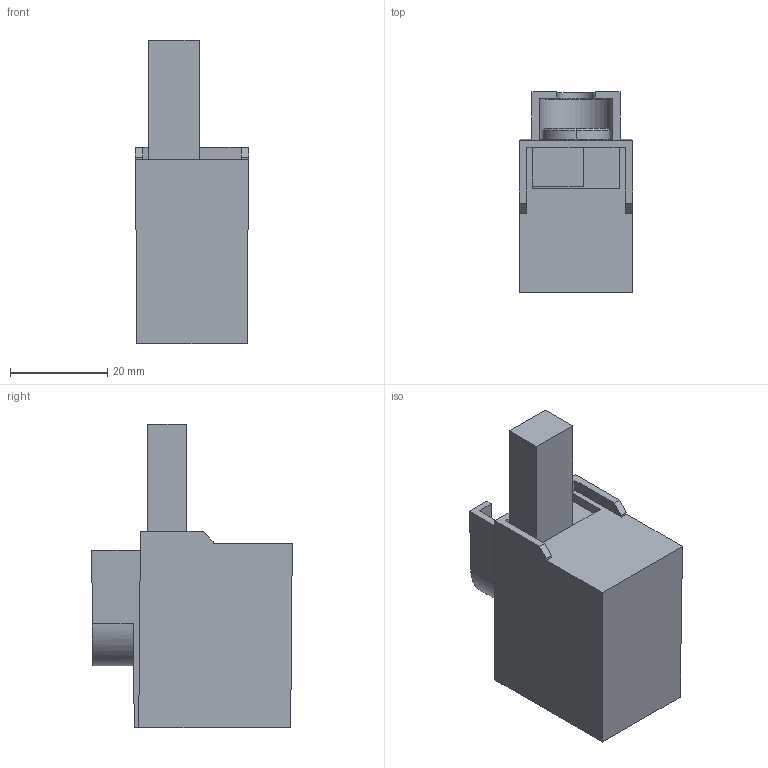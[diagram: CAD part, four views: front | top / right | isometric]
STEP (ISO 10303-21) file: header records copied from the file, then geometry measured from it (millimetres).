
FILE_DESCRIPTION((''),'2;1');
FILE_NAME('1479182','2025-04-11T08:26:05',('VilleKontturi'),(''),'CREO PARAMETRIC BY PTC INC, 2023154','CREO PARAMETRIC BY PTC INC, 2023154','');
FILE_SCHEMA(('AP242_MANAGED_MODEL_BASED_3D_ENGINEERING_MIM_LF { 1 0 10303 442 1 1 4 }'));
Length unit declared in the file: millimetre
Products named in the file (1): 1479182
Bounding box: 23.37 x 41.31 x 62.6 mm (x, y, z)
Volume: 24054.2 mm3; surface area: 9573.7 mm2
Topology: 1 solids, 1 shells, 55 faces, 149 edges, 97 vertices
Faces by surface type: plane 48, cylinder 5, cone 2
Entity records: 4117 total; most frequent: CARTESIAN_POINT 1014, DIRECTION 354, ORIENTED_EDGE 298, COLOUR_RGB 213, PRESENTATION_STYLE_ASSIGNMENT 183, STYLED_ITEM 170, CURVE_STYLE 154, EDGE_CURVE 149
